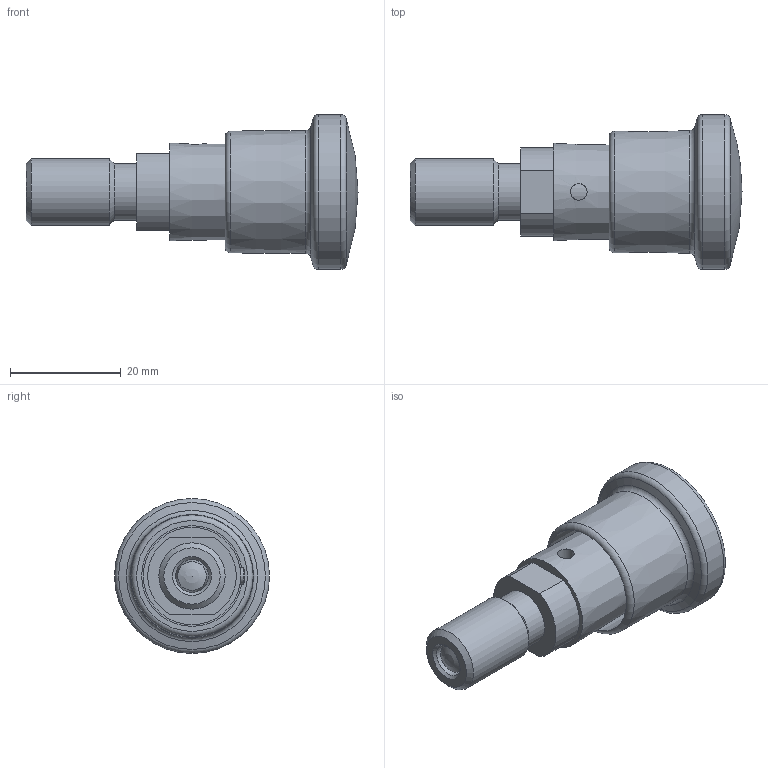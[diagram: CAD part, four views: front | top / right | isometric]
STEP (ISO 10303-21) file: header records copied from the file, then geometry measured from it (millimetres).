
FILE_DESCRIPTION( ( 'STEP AP203' ), '1' );
FILE_NAME( 'C:/Temp/Ganter_Step_05_03_2020/data/3_1/gn816_1/gn_816_1_a/Locking plunger GN 816.1-6-M12x1,5-A (deactivated).stp', '2020-03-12T08:56:06', ( 'License CC BY-ND 4.0' ), ( 'CADENAS' ), ' ', 'PARTsolutions', ' ' );
FILE_SCHEMA( ( 'CONFIG_CONTROL_DESIGN' ) );
Length unit declared in the file: millimetre
Products named in the file (3): Locking plunger GN 816.1-6-M12x1,5-A (deactivated); _GN 816.1-6-M12x1,5-A(0)-a2; _GN 816.1-6-M12x1,5-A-a1
Assembly tree (2 placements, depth 2):
  Locking plunger GN 816.1-6-M12x1,5-A (deactivated)
    _GN 816.1-6-M12x1,5-A(0)-a2
    _GN 816.1-6-M12x1,5-A-a1
Bounding box: 60 x 28 x 28 mm (x, y, z)
Volume: 11316.2 mm3; surface area: 9001.2 mm2
Topology: 2 solids, 2 shells, 51 faces, 102 edges, 62 vertices
Faces by surface type: cylinder 16, plane 14, cone 13, torus 6, sphere 2
Full cylindrical faces by diameter (mm): 2.9 x2, 3 x2, 6 x2, 8 x1, 8.1 x1, 10.2 x1, 11.1 x1, 12 x1, 18.2 x1, 20.017 x1, 28 x1
Entity records: 1486 total; most frequent: CARTESIAN_POINT 466, DIRECTION 206, ORIENTED_EDGE 118, EDGE_LOOP 100, AXIS2_PLACEMENT_3D 99, FACE_OUTER_BOUND 71, EDGE_CURVE 59, VERTEX_POINT 57
